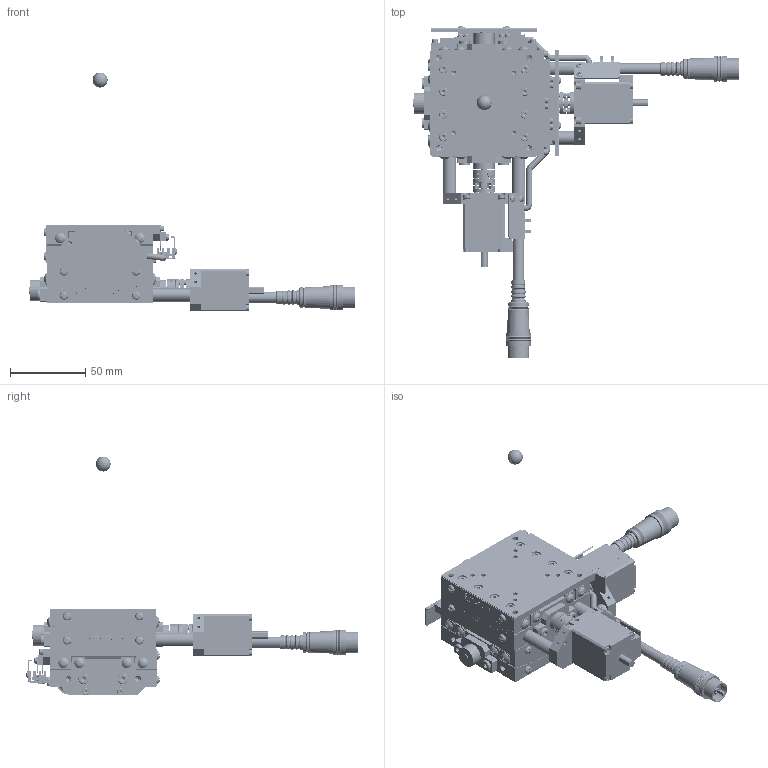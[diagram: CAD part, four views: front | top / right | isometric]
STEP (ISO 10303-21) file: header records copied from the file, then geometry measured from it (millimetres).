
FILE_DESCRIPTION( (''), '2;1');
FILE_NAME ('SA07A-R2L01.stp','2022-01-24T14:26:11',(''),(''),'spGate 17.5.5','','');
FILE_SCHEMA (('AUTOMOTIVE_DESIGN'));
Length unit declared in the file: millimetre
Products named in the file (13): Assembly; SA07A-R2L01-prt0; SA07A-R2L01-prt1; SA07A-R2L01-prt2; SA07A-R2L01-prt3; SA07A-R2L01-prt4; SA07A-R2L01-prt5; SA07A-R2L01-prt6; SA07A-R2L01-prt7; SA07A-R2L01-prt8; SA07A-R2L01-prt9; SA07A-R2L01-prt10; SA07A-R2L01-prt11
Assembly tree (12 placements, depth 2):
  Assembly
    SA07A-R2L01-prt0
    SA07A-R2L01-prt1
    SA07A-R2L01-prt2
    SA07A-R2L01-prt3
    SA07A-R2L01-prt4
    SA07A-R2L01-prt5
    SA07A-R2L01-prt6
    SA07A-R2L01-prt7
    SA07A-R2L01-prt8
    SA07A-R2L01-prt9
    SA07A-R2L01-prt10
    SA07A-R2L01-prt11
Bounding box: 216 x 220.18 x 158.5 mm (x, y, z)
Volume: 366400.4 mm3; surface area: 128412.2 mm2
Topology: 12 solids, 20 shells, 5902 faces, 15033 edges, 9417 vertices
Faces by surface type: plane 3632, cylinder 1404, bspline 772, sphere 94
Entity records: 301813 total; most frequent: CARTESIAN_POINT 43446, ORIENTED_EDGE 29672, DIRECTION 27950, COLOUR_RGB 20746, PRESENTATION_STYLE_ASSIGNMENT 20746, STYLED_ITEM 20746, EDGE_CURVE 14836, DRAUGHTING_PRE_DEFINED_CURVE_FONT 14836
